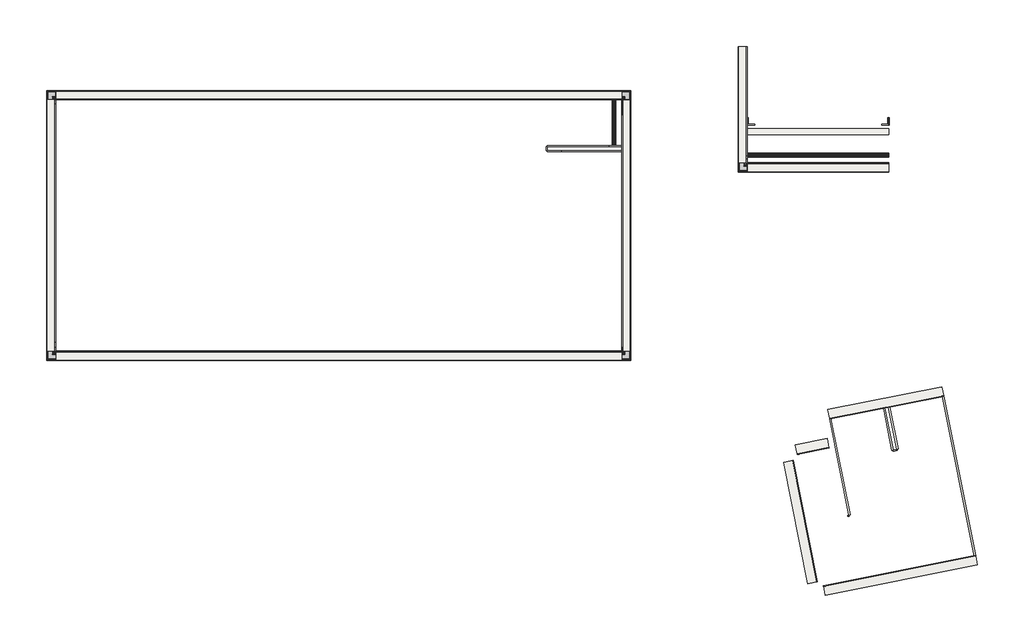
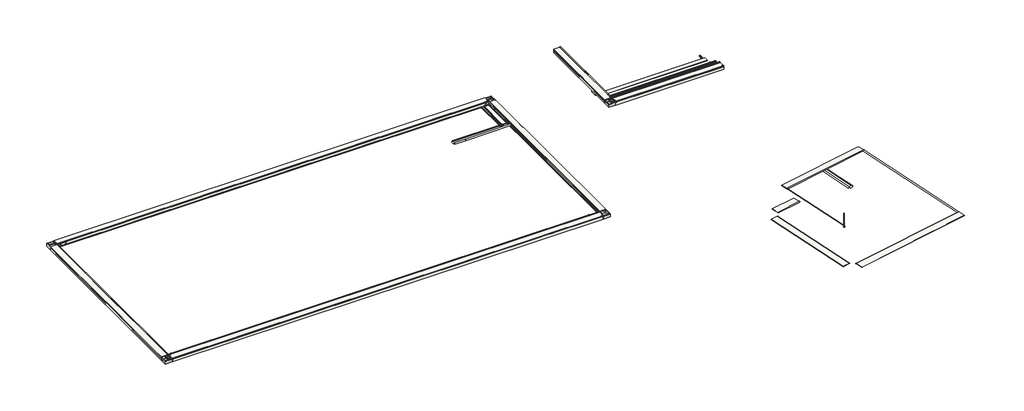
# One storey: 49 slabs, 10 proxies.
"""IFC4 building model written with IfcOpenShell, lengths in millimetres."""

from ifc_helpers import new_model, si_unit, frame, origin, place, context, project, spatial, polyline, outline, extrude, transform, mapped, element, save
from components import bloque_rs_943_f1732a4f, pieza_973_aqua_azul_liso_c06e4f9d, slab_17d3c6e7, slab_503e0185, slab_43fa2834, slab_f5e70500, slab_9aa3cb7b, slab_41163825, slab_283fe7c2, slab_b75b5d20, bloque_rs_941_323a77be, bloque_rs_941_c3a42344, bloque_rs_941_483e460d, bloque_rs_941_b02997a3, pieza_112_aqua_azul_liso_81c370b3, pieza_112_aqua_azul_liso_8ca1fe8c, pieza_112_aqua_azul_liso_d53efc4b, pieza_138_aqua_azul_liso_aaa424cb, pieza_138_aqua_azul_liso_eaa4235e, pieza_138_aqua_azul_liso_09cfdbad, pieza_138_aqua_azul_liso_be5017b2, pieza_138_aqua_azul_liso_2120dd76, pieza_138_aqua_azul_liso_2c4e594e, pieza_138_aqua_azul_liso_266cedea, pieza_138_aqua_azul_liso_2b254a65, pieza_138_aqua_azul_liso_3aafa499, pieza_138_aqua_azul_liso_94b4a06c, pieza_138_aqua_azul_liso_e8f9f07b, pieza_138_aqua_azul_liso_f8f67494, pieza_971_aqua_azul_liso_c0df6c5c, pieza_971_aqua_azul_liso_f9e32015, pieza_971_aqua_azul_liso_26917b94, pieza_971_aqua_azul_liso_7fdd6073, pieza_971_aqua_azul_liso_f4afc6d7, pieza_971_aqua_azul_liso_c4215186, pieza_971_aqua_azul_liso_acb72ac2, pieza_971_aqua_azul_liso_40bda4b8, pieza_971_aqua_azul_liso_258dba51, pieza_971_aqua_azul_liso_a5592165, pieza_971_aqua_azul_liso_ef726bf5, pieza_971_aqua_azul_liso_813bb267, rejilla_245_r2_blanco_65a08111, rejilla_245_r2_blanco_c39555f7, rejilla_245_r2_blanco_04524578, rejilla_245_r2_blanco_09f0caf5, rejilla_245_r2_blanco_db46887a, rejilla_245_r2_blanco_c9b4a24f

model = new_model("IFC4")

# Units and contexts
model_context = context("Model", 3, world=origin())
ifc_project = project(units=[si_unit("LENGTHUNIT", "METRE", prefix="MILLI")], contexts=[model_context])

# Site, building, storey
site = spatial("IfcSite", under=ifc_project)
building = spatial("IfcBuilding", under=site)
storey = spatial("IfcBuildingStorey", under=building, Name="2_N S9", Elevation=-148.4)

# Proxies
placement = place(None, origin())
bloque_rs_943_shape = bloque_rs_943_f1732a4f(model_context)
element("IfcBuildingElementProxy", 1, Name="ROSA GRES_RS 943 : Bloque RS 943", ObjectType="ROSA GRES_RS 943 : Bloque RS 943", at=placement, inside=storey, context=model_context, shape_type="MappedRepresentation", body=[
    mapped(bloque_rs_943_shape, transform((7196.4358793, -35482.4935365, -148.4), x_axis=(-1.0, 0.0, 0.0), y_axis=(0.0, -1.0, 0.0), z_axis=(0.0, 0.0, 1.0))),
])
element("IfcBuildingElementProxy", 2, Name="ROSA GRES_RS 943 : Bloque RS 943", ObjectType="ROSA GRES_RS 943 : Bloque RS 943", at=placement, inside=storey, context=model_context, shape_type="MappedRepresentation", body=[
    mapped(bloque_rs_943_shape, transform((7196.4358793, -26920.4926595, -148.4), x_axis=(0.0, 1.0, 0.0), y_axis=(-1.0, 0.0, 0.0), z_axis=(0.0, 0.0, 1.0))),
])
element("IfcBuildingElementProxy", 3, Name="ROSA GRES_RS 943 : Bloque RS 943", ObjectType="ROSA GRES_RS 943 : Bloque RS 943", at=placement, inside=storey, context=model_context, shape_type="MappedRepresentation", body=[
    mapped(bloque_rs_943_shape, transform((25758.436751, -26920.4926595, -148.4), x_axis=(1.0, 0.0, 0.0), y_axis=(0.0, 1.0, 0.0), z_axis=(0.0, 0.0, 1.0))),
])
element("IfcBuildingElementProxy", 4, Name="ROSA GRES_RS 943 : Bloque RS 943", ObjectType="ROSA GRES_RS 943 : Bloque RS 943", at=placement, inside=storey, context=model_context, shape_type="MappedRepresentation", body=[
    mapped(bloque_rs_943_shape, transform((25758.436751, -35482.4935365, -148.4), x_axis=(0.0, -1.0, 0.0), y_axis=(1.0, 0.0, 0.0), z_axis=(0.0, 0.0, 1.0))),
])
element("IfcBuildingElementProxy", 5, Name="ROSA GRES_RS 943 : Bloque RS 943", ObjectType="ROSA GRES_RS 943 : Bloque RS 943", at=placement, inside=storey, context=model_context, shape_type="MappedRepresentation", body=[
    mapped(bloque_rs_943_shape, transform((29196.4358793, -29482.4935365, -148.4), x_axis=(-1.0, 0.0, 0.0), y_axis=(0.0, -1.0, 0.0), z_axis=(0.0, 0.0, 1.0))),
])
pieza_973_aqua_azul_liso_shape = pieza_973_aqua_azul_liso_c06e4f9d(model_context)
element("IfcBuildingElementProxy", 6, Name="ROSA GRES_973 : Pieza 973_Aqua_Azul_Liso", ObjectType="ROSA GRES_973 : Pieza 973_Aqua_Azul_Liso", at=placement, inside=storey, context=model_context, shape_type="MappedRepresentation", body=[
    mapped(pieza_973_aqua_azul_liso_shape, transform((7477.3859676, -27201.493098, -148.4), x_axis=(0.0, -1.0, 0.0), y_axis=(1.0, 0.0, 0.0), z_axis=(0.0, 0.0, 1.0))),
])
element("IfcBuildingElementProxy", 7, Name="ROSA GRES_973 : Pieza 973_Aqua_Azul_Liso", ObjectType="ROSA GRES_973 : Pieza 973_Aqua_Azul_Liso", at=placement, inside=storey, context=model_context, shape_type="MappedRepresentation", body=[
    mapped(pieza_973_aqua_azul_liso_shape, transform((7477.4363177, -35201.493098, -148.4), x_axis=(1.0, 0.0, 0.0), y_axis=(0.0, 1.0, 0.0), z_axis=(0.0, 0.0, 1.0))),
])
element("IfcBuildingElementProxy", 8, Name="ROSA GRES_973 : Pieza 973_Aqua_Azul_Liso", ObjectType="ROSA GRES_973 : Pieza 973_Aqua_Azul_Liso", at=placement, inside=storey, context=model_context, shape_type="MappedRepresentation", body=[
    mapped(pieza_973_aqua_azul_liso_shape, transform((25477.4363125, -35201.493098, -148.4), x_axis=(0.0, 1.0, 0.0), y_axis=(-1.0, 0.0, 0.0), z_axis=(0.0, 0.0, 1.0))),
])
element("IfcBuildingElementProxy", 9, Name="ROSA GRES_973 : Pieza 973_Aqua_Azul_Liso", ObjectType="ROSA GRES_973 : Pieza 973_Aqua_Azul_Liso", at=placement, inside=storey, context=model_context, shape_type="MappedRepresentation", body=[
    mapped(pieza_973_aqua_azul_liso_shape, transform((25477.4363125, -27201.493098, -148.4), x_axis=(-1.0, 0.0, 0.0), y_axis=(0.0, -1.0, 0.0), z_axis=(0.0, 0.0, 1.0))),
])
element("IfcBuildingElementProxy", 10, Name="ROSA GRES_973 : Pieza 973_Aqua_Azul_Liso", ObjectType="ROSA GRES_973 : Pieza 973_Aqua_Azul_Liso", at=placement, inside=storey, context=model_context, shape_type="MappedRepresentation", body=[
    mapped(pieza_973_aqua_azul_liso_shape, transform((29477.4363177, -29201.493098, -148.4), x_axis=(1.0, 0.0, 0.0), y_axis=(0.0, 1.0, 0.0), z_axis=(0.0, 0.0, 1.0))),
])

# Slabs
element("IfcSlab", 11, ObjectType="Pieza 244 G1_Patrón Recto_Aqua_Azul_Anti-Slip", at=placement, inside=storey, context=model_context, shape_type="SweptSolid", body=[
    extrude(outline(polyline([(33977.4363177, -28118.5581387), (33977.4363177, -28301.5412499), (29477.4363177, -28301.5412499), (29477.4363177, -28118.5581387), (33977.4363177, -28118.5581387)])), frame((0.0, 0.0, -488.8572336), z_axis=(0.0, 0.0, 1.0), x_axis=(1.0, 0.0, 0.0)), (0.0, 0.0, 1.0), 9.0),
])
slab_shape = slab_17d3c6e7(model_context)
element("IfcSlab", 12, ObjectType="ROSA GRES_003 : Pieza 003_Aqua_Marino_Anti-Slip", at=placement, inside=storey, context=model_context, shape_type="MappedRepresentation", body=[
    mapped(slab_shape, transform((25175.5844643, -28421.4665095, -148.0481195), x_axis=(0.0, 1.0, 0.0), y_axis=(-1.0, 0.0, 0.0), z_axis=(0.0, 0.0, 1.0))),
])
slab_2_shape = slab_503e0185(model_context)
element("IfcSlab", 13, ObjectType="ROSA GRES_003 : Pieza 003_Aqua_Marino_Anti-Slip", at=placement, inside=storey, context=model_context, shape_type="MappedRepresentation", body=[
    mapped(slab_2_shape, transform((25175.5844643, -28421.4665095, -148.0481195), x_axis=(0.0, -1.0, 0.0), y_axis=(1.0, 0.0, 0.0), z_axis=(0.0, 0.0, 1.0))),
])
slab_3_shape = slab_43fa2834(model_context)
element("IfcSlab", 14, ObjectType="ROSA GRES_003 : Pieza 003_Aqua_Marino_Anti-Slip", at=placement, inside=storey, context=model_context, shape_type="MappedRepresentation", body=[
    mapped(slab_3_shape, transform((33757.4629063, -28899.6412499, -128.8572336), x_axis=(-1.0, 0.0, 0.0), y_axis=(0.0, -1.0, 0.0), z_axis=(0.0, 0.0, 1.0))),
])
slab_4_shape = slab_f5e70500(model_context)
element("IfcSlab", 15, ObjectType="ROSA GRES_003 : Pieza 003_Aqua_Marino_Anti-Slip", at=placement, inside=storey, context=model_context, shape_type="MappedRepresentation", body=[
    mapped(slab_4_shape, transform((33757.4629063, -28899.6412499, -128.8572336), x_axis=(1.0, 0.0, 0.0), y_axis=(0.0, 1.0, 0.0), z_axis=(0.0, 0.0, 1.0))),
])
slab_5_shape = slab_9aa3cb7b(model_context)
element("IfcSlab", 16, ObjectType="ROSA GRES_S62 : Pieza S62_Serena_Griggio_Anti-Slip", at=placement, inside=storey, context=model_context, shape_type="MappedRepresentation", body=[
    mapped(slab_5_shape, transform((32094.6963397, -37361.0116944, -12.4), x_axis=(0.980567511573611, 0.196181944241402, 0.0), y_axis=(-0.196181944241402, 0.980567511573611, 0.0), z_axis=(0.0, 0.0, 1.0))),
])
slab_6_shape = slab_41163825(model_context)
element("IfcSlab", 17, ObjectType="ROSA GRES_S62 : Pieza S62_Serena_Griggio_Anti-Slip", at=placement, inside=storey, context=model_context, shape_type="MappedRepresentation", body=[
    mapped(slab_6_shape, transform((31060.2700133, -38488.6680611, -12.4), x_axis=(0.9805675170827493, 0.1961819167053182, 0.0), y_axis=(-0.1961819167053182, 0.9805675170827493, 0.0), z_axis=(0.0, 0.0, 1.0))),
])
slab_7_shape = slab_283fe7c2(model_context)
element("IfcSlab", 18, ObjectType="ROSA GRES_S62 : Pieza S62_Serena_Griggio_Anti-Slip", at=placement, inside=storey, context=model_context, shape_type="MappedRepresentation", body=[
    mapped(slab_7_shape, transform((31898.3905558, -42677.2341951, -12.4), x_axis=(0.9805675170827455, 0.19618191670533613, 0.0), y_axis=(-0.19618191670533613, 0.9805675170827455, 0.0), z_axis=(0.0, 0.0, 1.0))),
])
slab_8_shape = slab_b75b5d20(model_context)
element("IfcSlab", 19, ObjectType="ROSA GRES_S62 : Pieza S62_Serena_Griggio_Anti-Slip", at=placement, inside=storey, context=model_context, shape_type="MappedRepresentation", body=[
    mapped(slab_8_shape, transform((30931.3004745, -38682.2943574, -12.4), x_axis=(0.1961819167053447, -0.9805675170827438, 0.0), y_axis=(0.9805675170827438, 0.1961819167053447, 0.0), z_axis=(0.0, 0.0, 1.0))),
])
bloque_rs_941_shape = bloque_rs_941_323a77be(model_context)
element("IfcSlab", 20, ObjectType="ROSA GRES_RS 941 : Bloque_RS 941", at=placement, inside=storey, context=model_context, shape_type="MappedRepresentation", body=[
    mapped(bloque_rs_941_shape, transform((7477.4363177, -27201.493098, -148.4), x_axis=(1.0, 0.0, 0.0), y_axis=(0.0, 1.0, 0.0), z_axis=(0.0, 0.0, 1.0))),
])
element("IfcSlab", 21, ObjectType="ROSA GRES_RS 941 : Bloque_RS 941", at=placement, inside=storey, context=model_context, shape_type="MappedRepresentation", body=[
    mapped(bloque_rs_941_shape, transform((25477.4363125, -35201.493098, -148.4), x_axis=(-1.0, 0.0, 0.0), y_axis=(0.0, -1.0, 0.0), z_axis=(0.0, 0.0, 1.0))),
])
bloque_rs_941_2_shape = bloque_rs_941_c3a42344(model_context)
element("IfcSlab", 22, ObjectType="ROSA GRES_RS 941 : Bloque_RS 941", at=placement, inside=storey, context=model_context, shape_type="MappedRepresentation", body=[
    mapped(bloque_rs_941_2_shape, transform((7477.4363177, -35201.493098, -148.4), x_axis=(0.0, 1.0, 0.0), y_axis=(-1.0, 0.0, 0.0), z_axis=(0.0, 0.0, 1.0))),
])
element("IfcSlab", 23, ObjectType="ROSA GRES_RS 941 : Bloque_RS 941", at=placement, inside=storey, context=model_context, shape_type="MappedRepresentation", body=[
    mapped(bloque_rs_941_2_shape, transform((25477.4363125, -27201.493098, -148.4), x_axis=(0.0, -1.0, 0.0), y_axis=(1.0, 0.0, 0.0), z_axis=(0.0, 0.0, 1.0))),
])
bloque_rs_941_3_shape = bloque_rs_941_483e460d(model_context)
element("IfcSlab", 24, ObjectType="ROSA GRES_RS 941 : Bloque_RS 941", at=placement, inside=storey, context=model_context, shape_type="MappedRepresentation", body=[
    mapped(bloque_rs_941_3_shape, transform((29477.4363177, -29201.493098, -148.4), x_axis=(0.0, 1.0, 0.0), y_axis=(-1.0, 0.0, 0.0), z_axis=(0.0, 0.0, 1.0))),
])
bloque_rs_941_4_shape = bloque_rs_941_b02997a3(model_context)
element("IfcSlab", 25, ObjectType="ROSA GRES_RS 941 : Bloque_RS 941", at=placement, inside=storey, context=model_context, shape_type="MappedRepresentation", body=[
    mapped(bloque_rs_941_4_shape, transform((29477.4363177, -29201.493098, -148.4), x_axis=(1.0, 0.0, 0.0), y_axis=(0.0, 1.0, 0.0), z_axis=(0.0, 0.0, 1.0))),
])
pieza_112_aqua_azul_liso_shape = pieza_112_aqua_azul_liso_81c370b3(model_context)
element("IfcSlab", 26, ObjectType="ROSA GRES_112 (corte) : Pieza 112_Aqua_Azul_Liso", at=placement, inside=storey, context=model_context, shape_type="MappedRepresentation", body=[
    mapped(pieza_112_aqua_azul_liso_shape, transform((29467.4629063, -27767.9665095, -610.4), x_axis=(0.0, -1.0, 0.0), y_axis=(1.0, 0.0, 0.0), z_axis=(0.0, 0.0, 1.0))),
])
pieza_112_aqua_azul_liso_2_shape = pieza_112_aqua_azul_liso_8ca1fe8c(model_context)
element("IfcSlab", 27, ObjectType="ROSA GRES_112 (corte) : Pieza 112_Aqua_Azul_Liso", at=placement, inside=storey, context=model_context, shape_type="MappedRepresentation", body=[
    mapped(pieza_112_aqua_azul_liso_2_shape, transform((33987.4097292, -27767.9665095, -610.4), x_axis=(0.0, -1.0, 0.0), y_axis=(1.0, 0.0, 0.0), z_axis=(0.0, 0.0, 1.0))),
])
element("IfcSlab", 28, ObjectType="ROSA GRES_112 (corte) : Pieza 112_Aqua_Azul_Liso", at=placement, inside=storey, context=model_context, shape_type="MappedRepresentation", body=[
    mapped(pieza_112_aqua_azul_liso_2_shape, transform((29710.9629063, -28011.4665095, -610.4), x_axis=(-1.0, 0.0, 0.0), y_axis=(0.0, -1.0, 0.0), z_axis=(0.0, 0.0, 1.0))),
])
pieza_112_aqua_azul_liso_3_shape = pieza_112_aqua_azul_liso_d53efc4b(model_context)
element("IfcSlab", 29, ObjectType="ROSA GRES_112 (corte) : Pieza 112_Aqua_Azul_Liso", at=placement, inside=storey, context=model_context, shape_type="MappedRepresentation", body=[
    mapped(pieza_112_aqua_azul_liso_3_shape, transform((33757.4629063, -28011.4665095, -610.4), x_axis=(1.0, 0.0, 0.0), y_axis=(0.0, 1.0, 0.0), z_axis=(0.0, 0.0, 1.0))),
])
pieza_138_aqua_azul_liso_shape = pieza_138_aqua_azul_liso_aaa424cb(model_context)
element("IfcSlab", 30, ObjectType="ROSA GRES_138 : Pieza 138_Aqua_Azul_Liso", at=placement, inside=storey, context=model_context, shape_type="MappedRepresentation", body=[
    mapped(pieza_138_aqua_azul_liso_shape, transform((23573.1909948, -28811.493098, -40.4), x_axis=(1.0, 0.0, 0.0), y_axis=(0.0, 0.0, 1.0), z_axis=(0.0, -1.0, 0.0))),
])
pieza_138_aqua_azul_liso_2_shape = pieza_138_aqua_azul_liso_eaa4235e(model_context)
element("IfcSlab", 31, ObjectType="ROSA GRES_138 : Pieza 138_Aqua_Azul_Liso", at=placement, inside=storey, context=model_context, shape_type="MappedRepresentation", body=[
    mapped(pieza_138_aqua_azul_liso_2_shape, transform((23117.4363125, -28691.493098, -40.4), x_axis=(0.0, -1.0, 0.0), y_axis=(0.0, 0.0, 1.0), z_axis=(-1.0, 0.0, 0.0))),
])
pieza_138_aqua_azul_liso_3_shape = pieza_138_aqua_azul_liso_09cfdbad(model_context)
element("IfcSlab", 32, ObjectType="ROSA GRES_138 : Pieza 138_Aqua_Azul_Liso", at=placement, inside=storey, context=model_context, shape_type="MappedRepresentation", body=[
    mapped(pieza_138_aqua_azul_liso_3_shape, transform((25073.2187862, -28691.493098, -40.4), x_axis=(-1.0, 0.0, 0.0), y_axis=(0.0, 0.0, 1.0), z_axis=(0.0, 1.0, 0.0))),
])
pieza_138_aqua_azul_liso_4_shape = pieza_138_aqua_azul_liso_be5017b2(model_context)
element("IfcSlab", 33, ObjectType="ROSA GRES_138 : Pieza 138_Aqua_Azul_Liso", at=placement, inside=storey, context=model_context, shape_type="MappedRepresentation", body=[
    mapped(pieza_138_aqua_azul_liso_4_shape, transform((25073.2187862, -28691.493098, -40.4), x_axis=(1.0, 0.0, 0.0), y_axis=(0.0, 0.0, -1.0), z_axis=(0.0, 1.0, 0.0))),
])
pieza_138_aqua_azul_liso_5_shape = pieza_138_aqua_azul_liso_2120dd76(model_context)
element("IfcSlab", 34, ObjectType="ROSA GRES_138 : Pieza 138_Aqua_Azul_Liso", at=placement, inside=storey, context=model_context, shape_type="MappedRepresentation", body=[
    mapped(pieza_138_aqua_azul_liso_5_shape, transform((23573.1909948, -28811.493098, -40.4), x_axis=(-1.0, 0.0, 0.0), y_axis=(0.0, 0.0, -1.0), z_axis=(0.0, -1.0, 0.0))),
])
pieza_138_aqua_azul_liso_6_shape = pieza_138_aqua_azul_liso_2c4e594e(model_context)
element("IfcSlab", 35, ObjectType="ROSA GRES_138 : Pieza 138_Aqua_Azul_Liso", at=placement, inside=storey, context=model_context, shape_type="MappedRepresentation", body=[
    mapped(pieza_138_aqua_azul_liso_6_shape, transform((35720.5780739, -36624.0519568, -26.3454542), x_axis=(0.19618191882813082, -0.9805675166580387, 0.0), y_axis=(0.0, 0.0, 1.0000000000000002), z_axis=(-0.9805675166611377, -0.19618191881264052, 0.0))),
])
pieza_138_aqua_azul_liso_7_shape = pieza_138_aqua_azul_liso_266cedea(model_context)
element("IfcSlab", 36, ObjectType="ROSA GRES_138 : Pieza 138_Aqua_Azul_Liso", at=placement, inside=storey, context=model_context, shape_type="MappedRepresentation", body=[
    mapped(pieza_138_aqua_azul_liso_7_shape, transform((34234.9384224, -38322.6289844, -52.4), x_axis=(-0.19618190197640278, 0.9805675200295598, 0.0), y_axis=(0.0, 0.0, 1.0000000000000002), z_axis=(0.98056752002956, 0.19618190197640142, 0.0))),
])
pieza_138_aqua_azul_liso_8_shape = pieza_138_aqua_azul_liso_2b254a65(model_context)
element("IfcSlab", 37, ObjectType="ROSA GRES_138 : Pieza 138_Aqua_Azul_Liso", at=placement, inside=storey, context=model_context, shape_type="MappedRepresentation", body=[
    mapped(pieza_138_aqua_azul_liso_8_shape, transform((33850.0413388, -37010.491559, -52.4), x_axis=(0.19618191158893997, -0.9805675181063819, 0.0), y_axis=(0.0, 0.0, 1.0000000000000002), z_axis=(-0.9805675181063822, -0.19618191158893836, 0.0))),
])
pieza_138_aqua_azul_liso_9_shape = pieza_138_aqua_azul_liso_3aafa499(model_context)
element("IfcSlab", 38, ObjectType="ROSA GRES_138 : Pieza 138_Aqua_Azul_Liso", at=placement, inside=storey, context=model_context, shape_type="MappedRepresentation", body=[
    mapped(pieza_138_aqua_azul_liso_9_shape, transform((34117.2703399, -38346.1707757, -52.4), x_axis=(0.9805675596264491, 0.1961817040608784, 0.0), y_axis=(0.0, 0.0, 1.0), z_axis=(0.1961817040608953, -0.9805675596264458, 0.0))),
])
pieza_138_aqua_azul_liso_10_shape = pieza_138_aqua_azul_liso_94b4a06c(model_context)
element("IfcSlab", 39, ObjectType="ROSA GRES_138 : Pieza 138_Aqua_Azul_Liso", at=placement, inside=storey, context=model_context, shape_type="MappedRepresentation", body=[
    mapped(pieza_138_aqua_azul_liso_10_shape, transform((32705.3781832, -40413.35567, -26.3454542), x_axis=(-0.19618194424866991, 0.9805675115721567, 0.0), y_axis=(0.0, 0.0, 1.0), z_axis=(0.9805675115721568, 0.19618194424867, 0.0))),
])
pieza_138_aqua_azul_liso_11_shape = pieza_138_aqua_azul_liso_e8f9f07b(model_context)
element("IfcSlab", 40, ObjectType="ROSA GRES_138 : Pieza 138_Aqua_Azul_Liso", at=placement, inside=storey, context=model_context, shape_type="MappedRepresentation", body=[
    mapped(pieza_138_aqua_azul_liso_11_shape, transform((32666.2047753, -40421.1659831, 559.6), x_axis=(0.0, 0.0, -1.0), y_axis=(0.9805675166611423, 0.19618191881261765, 0.0), z_axis=(0.19618191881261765, -0.9805675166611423, 0.0))),
])
pieza_138_aqua_azul_liso_12_shape = pieza_138_aqua_azul_liso_f8f67494(model_context)
element("IfcSlab", 41, ObjectType="ROSA GRES_138 : Pieza 138_Aqua_Azul_Liso", at=placement, inside=storey, context=model_context, shape_type="MappedRepresentation", body=[
    mapped(pieza_138_aqua_azul_liso_12_shape, transform((32705.3781832, -40413.35567, -26.3454542), x_axis=(-0.9805675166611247, -0.19618191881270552, 0.0), y_axis=(0.0, 0.0, -1.0), z_axis=(0.19618191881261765, -0.9805675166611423, 0.0))),
])
pieza_971_aqua_azul_liso_shape = pieza_971_aqua_azul_liso_c0df6c5c(model_context)
element("IfcSlab", 42, ObjectType="ROSA GRES_971 : Pieza 971_Aqua_Azul_Liso", at=placement, inside=storey, context=model_context, shape_type="MappedRepresentation", body=[
    mapped(pieza_971_aqua_azul_liso_shape, transform((7807.0363177, -27201.493098, -148.4), x_axis=(1.0, 0.0, 0.0), y_axis=(0.0, 1.0, 0.0), z_axis=(0.0, 0.0, 1.0))),
])
pieza_971_aqua_azul_liso_2_shape = pieza_971_aqua_azul_liso_f9e32015(model_context)
element("IfcSlab", 43, ObjectType="ROSA GRES_971 : Pieza 971_Aqua_Azul_Liso", at=placement, inside=storey, context=model_context, shape_type="MappedRepresentation", body=[
    mapped(pieza_971_aqua_azul_liso_2_shape, transform((7807.0363177, -27201.493098, -148.4), x_axis=(-1.0, 0.0, 0.0), y_axis=(0.0, -1.0, 0.0), z_axis=(0.0, 0.0, 1.0))),
])
pieza_971_aqua_azul_liso_3_shape = pieza_971_aqua_azul_liso_26917b94(model_context)
element("IfcSlab", 44, ObjectType="ROSA GRES_971 : Pieza 971_Aqua_Azul_Liso", at=placement, inside=storey, context=model_context, shape_type="MappedRepresentation", body=[
    mapped(pieza_971_aqua_azul_liso_3_shape, transform((7477.4363177, -34925.4400561, -148.4), x_axis=(0.0, 1.0, 0.0), y_axis=(-1.0, 0.0, 0.0), z_axis=(0.0, 0.0, 1.0))),
])
pieza_971_aqua_azul_liso_4_shape = pieza_971_aqua_azul_liso_7fdd6073(model_context)
element("IfcSlab", 45, ObjectType="ROSA GRES_971 : Pieza 971_Aqua_Azul_Liso", at=placement, inside=storey, context=model_context, shape_type="MappedRepresentation", body=[
    mapped(pieza_971_aqua_azul_liso_4_shape, transform((25057.4670911, -35201.493098, -148.4), x_axis=(-1.0, 0.0, 0.0), y_axis=(0.0, -1.0, 0.0), z_axis=(0.0, 0.0, 1.0))),
])
pieza_971_aqua_azul_liso_5_shape = pieza_971_aqua_azul_liso_f4afc6d7(model_context)
element("IfcSlab", 46, ObjectType="ROSA GRES_971 : Pieza 971_Aqua_Azul_Liso", at=placement, inside=storey, context=model_context, shape_type="MappedRepresentation", body=[
    mapped(pieza_971_aqua_azul_liso_5_shape, transform((25477.4363125, -27671.493098, -148.4), x_axis=(0.0, -1.0, 0.0), y_axis=(1.0, 0.0, 0.0), z_axis=(0.0, 0.0, 1.0))),
])
pieza_971_aqua_azul_liso_6_shape = pieza_971_aqua_azul_liso_c4215186(model_context)
element("IfcSlab", 47, ObjectType="ROSA GRES_971 : Pieza 971_Aqua_Azul_Liso", at=placement, inside=storey, context=model_context, shape_type="MappedRepresentation", body=[
    mapped(pieza_971_aqua_azul_liso_6_shape, transform((25477.4363125, -27671.493098, -148.4), x_axis=(0.0, 1.0, 0.0), y_axis=(-1.0, 0.0, 0.0), z_axis=(0.0, 0.0, 1.0))),
])
pieza_971_aqua_azul_liso_7_shape = pieza_971_aqua_azul_liso_acb72ac2(model_context)
element("IfcSlab", 48, ObjectType="ROSA GRES_971 : Pieza 971_Aqua_Azul_Liso", at=placement, inside=storey, context=model_context, shape_type="MappedRepresentation", body=[
    mapped(pieza_971_aqua_azul_liso_7_shape, transform((25057.4670911, -35201.493098, -148.4), x_axis=(1.0, 0.0, 0.0), y_axis=(0.0, 1.0, 0.0), z_axis=(0.0, 0.0, 1.0))),
])
pieza_971_aqua_azul_liso_8_shape = pieza_971_aqua_azul_liso_40bda4b8(model_context)
element("IfcSlab", 49, ObjectType="ROSA GRES_971 : Pieza 971_Aqua_Azul_Liso", at=placement, inside=storey, context=model_context, shape_type="MappedRepresentation", body=[
    mapped(pieza_971_aqua_azul_liso_8_shape, transform((7477.4363177, -34925.4400561, -148.4), x_axis=(0.0, -1.0, 0.0), y_axis=(1.0, 0.0, 0.0), z_axis=(0.0, 0.0, 1.0))),
])
pieza_971_aqua_azul_liso_9_shape = pieza_971_aqua_azul_liso_258dba51(model_context)
element("IfcSlab", 50, ObjectType="ROSA GRES_971 : Pieza 971_Aqua_Azul_Liso", at=placement, inside=storey, context=model_context, shape_type="MappedRepresentation", body=[
    mapped(pieza_971_aqua_azul_liso_9_shape, transform((29477.4363177, -28973.5913405, -148.4), x_axis=(0.0, 1.0, 0.0), y_axis=(-1.0, 0.0, 0.0), z_axis=(0.0, 0.0, 1.0))),
])
pieza_971_aqua_azul_liso_10_shape = pieza_971_aqua_azul_liso_a5592165(model_context)
element("IfcSlab", 51, ObjectType="ROSA GRES_971 : Pieza 971_Aqua_Azul_Liso", at=placement, inside=storey, context=model_context, shape_type="MappedRepresentation", body=[
    mapped(pieza_971_aqua_azul_liso_10_shape, transform((29757.4629063, -29201.493098, -148.4), x_axis=(1.0, 0.0, 0.0), y_axis=(0.0, 1.0, 0.0), z_axis=(0.0, 0.0, 1.0))),
])
pieza_971_aqua_azul_liso_11_shape = pieza_971_aqua_azul_liso_ef726bf5(model_context)
element("IfcSlab", 52, ObjectType="ROSA GRES_971 : Pieza 971_Aqua_Azul_Liso", at=placement, inside=storey, context=model_context, shape_type="MappedRepresentation", body=[
    mapped(pieza_971_aqua_azul_liso_11_shape, transform((29477.4363177, -28973.5913405, -148.4), x_axis=(0.0, -1.0, 0.0), y_axis=(1.0, 0.0, 0.0), z_axis=(0.0, 0.0, 1.0))),
])
pieza_971_aqua_azul_liso_12_shape = pieza_971_aqua_azul_liso_813bb267(model_context)
element("IfcSlab", 53, ObjectType="ROSA GRES_971 : Pieza 971_Aqua_Azul_Liso", at=placement, inside=storey, context=model_context, shape_type="MappedRepresentation", body=[
    mapped(pieza_971_aqua_azul_liso_12_shape, transform((29597.4363177, -29201.493098, -148.4), x_axis=(1.0, 0.0, 0.0), y_axis=(0.0, 1.0, 0.0), z_axis=(0.0, 0.0, 1.0))),
])
rejilla_245_r2_blanco_shape = rejilla_245_r2_blanco_65a08111(model_context)
element("IfcSlab", 54, ObjectType="ROSA GRES_245 R2 : Rejilla 245 R2_Blanco", at=placement, inside=storey, context=model_context, shape_type="MappedRepresentation", body=[
    mapped(rejilla_245_r2_blanco_shape, transform((7487.445438, -27531.093098, -228.7460936), x_axis=(1.0, 0.0, 0.0), y_axis=(0.0, 1.0, 0.0), z_axis=(0.0, 0.0, 1.0))),
])
rejilla_245_r2_blanco_2_shape = rejilla_245_r2_blanco_c39555f7(model_context)
element("IfcSlab", 55, ObjectType="ROSA GRES_245 R2 : Rejilla 245 R2_Blanco", at=placement, inside=storey, context=model_context, shape_type="MappedRepresentation", body=[
    mapped(rejilla_245_r2_blanco_2_shape, transform((25147.8454328, -27211.5022183, -228.7460936), x_axis=(0.0, -1.0, 0.0), y_axis=(1.0, 0.0, 0.0), z_axis=(0.0, 0.0, 1.0))),
])
rejilla_245_r2_blanco_3_shape = rejilla_245_r2_blanco_04524578(model_context)
element("IfcSlab", 56, ObjectType="ROSA GRES_245 R2 : Rejilla 245 R2_Blanco", at=placement, inside=storey, context=model_context, shape_type="MappedRepresentation", body=[
    mapped(rejilla_245_r2_blanco_3_shape, transform((7487.445438, -34871.893098, -228.7460936), x_axis=(1.0, 0.0, 0.0), y_axis=(0.0, 1.0, 0.0), z_axis=(0.0, 0.0, 1.0))),
])
rejilla_245_r2_blanco_4_shape = rejilla_245_r2_blanco_09f0caf5(model_context)
element("IfcSlab", 57, ObjectType="ROSA GRES_245 R2 : Rejilla 245 R2_Blanco", at=placement, inside=storey, context=model_context, shape_type="MappedRepresentation", body=[
    mapped(rejilla_245_r2_blanco_4_shape, transform((7807.0363177, -27201.493098, -228.7460936), x_axis=(0.0, -1.0, 0.0), y_axis=(1.0, 0.0, 0.0), z_axis=(0.0, 0.0, 1.0))),
])
rejilla_245_r2_blanco_5_shape = rejilla_245_r2_blanco_db46887a(model_context)
element("IfcSlab", 58, ObjectType="ROSA GRES_245 R2 : Rejilla 245 R2_Blanco", at=placement, inside=storey, context=model_context, shape_type="MappedRepresentation", body=[
    mapped(rejilla_245_r2_blanco_5_shape, transform((29487.4363177, -29856.0839777, -228.7460936), x_axis=(1.0, 0.0, 0.0), y_axis=(0.0, 1.0, 0.0), z_axis=(0.0, 0.0, 1.0))),
])
rejilla_245_r2_blanco_6_shape = rejilla_245_r2_blanco_c9b4a24f(model_context)
element("IfcSlab", 59, ObjectType="ROSA GRES_245 R2 : Rejilla 245 R2_Blanco", at=placement, inside=storey, context=model_context, shape_type="MappedRepresentation", body=[
    mapped(rejilla_245_r2_blanco_6_shape, transform((29807.0271974, -29191.493098, -228.7460936), x_axis=(0.0, 1.0, 0.0), y_axis=(-1.0, 0.0, 0.0), z_axis=(0.0, 0.0, 1.0))),
])

save(model, "model.ifc")
